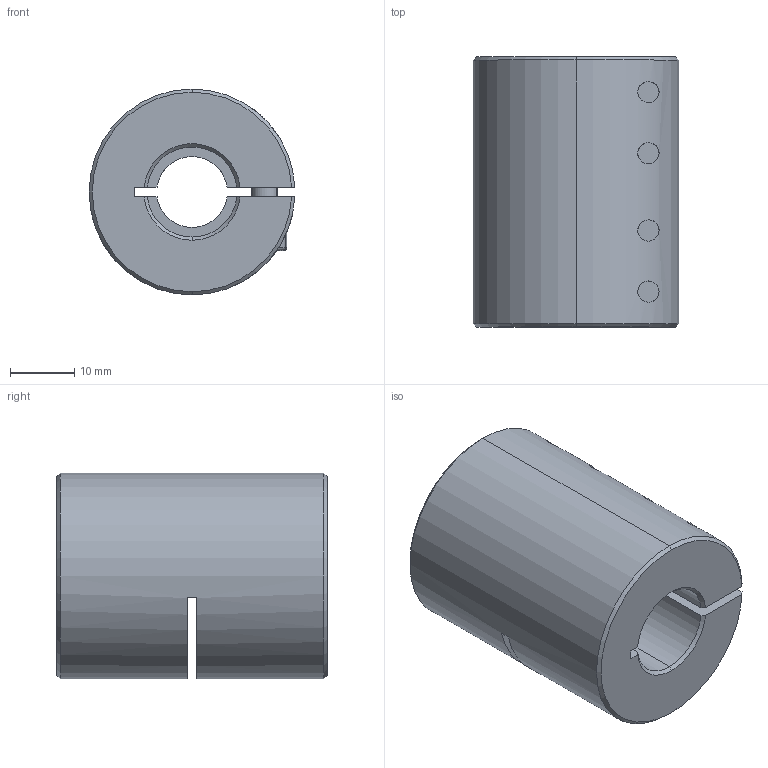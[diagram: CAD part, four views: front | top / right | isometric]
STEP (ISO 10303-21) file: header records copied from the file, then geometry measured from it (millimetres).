
FILE_DESCRIPTION (( 'STEP AP203' ), '1' );
FILE_NAME ('LL-B-D32L42-11-14.STEP', '2021-11-05T07:49:49', ( '' ), ( '' ), 'SwSTEP 2.0', 'SolidWorks 2018', '' );
FILE_SCHEMA (( 'CONFIG_CONTROL_DESIGN' ));
Length unit declared in the file: millimetre
Products named in the file (1): LL-B-D32L42-11-14
Bounding box: 31.98 x 42 x 32 mm (x, y, z)
Volume: 26318.5 mm3; surface area: 10317.4 mm2
Topology: 1 solids, 1 shells, 193 faces, 492 edges, 309 vertices
Faces by surface type: plane 88, cylinder 77, cone 20, torus 8
Entity records: 6376 total; most frequent: CARTESIAN_POINT 1559, DIRECTION 1037, ORIENTED_EDGE 968, EDGE_CURVE 484, AXIS2_PLACEMENT_3D 403, VERTEX_POINT 309, VECTOR 231, LINE 231
